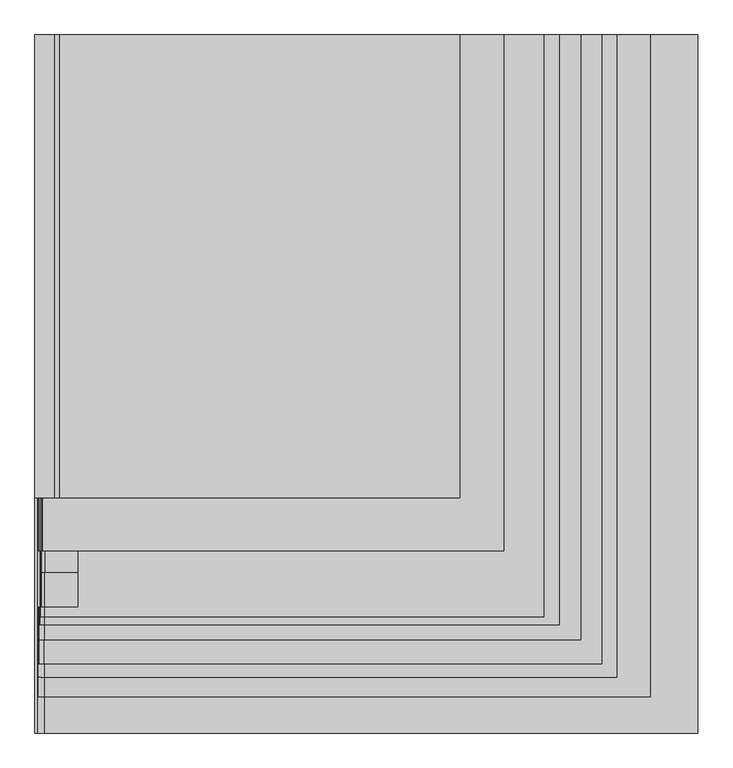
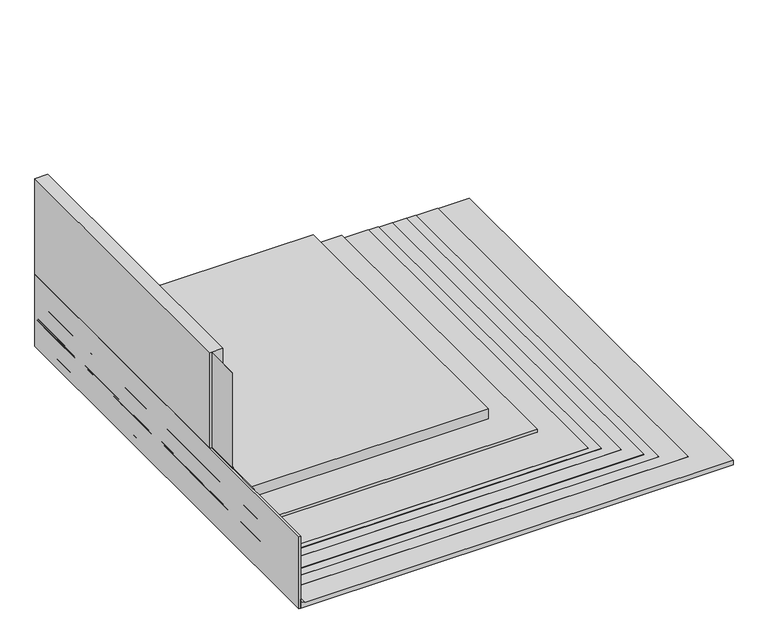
"""IFC4 building model written with IfcOpenShell, lengths in millimetres: proxy geometry, IMPER:IMPER:433934 : IMPER:IMPER:433934."""

from ifc_helpers import new_model, si_unit, point, frame, frame_2d, origin, place, context, project, spatial, polyline, circle_curve, trimmed, segment, composite_curve, outline, extrude, source, transform, mapped, element, save


def generic_models_e7e59d38(model_context):
    return source(origin(), model_context, "Body", "SweptSolid", [
        extrude(outline(polyline([(-351.9704105, 145.8700195), (-341.9704105, 145.8700195), (-341.9704105, -2708.2416892), (-351.9704105, -2708.2416892), (-351.9704105, 145.8700195)])), frame((0.0, 0.0, -2.523798), z_axis=(0.0, 0.0, 1.0), x_axis=(1.0, 0.0, 0.0)), (0.0, 0.0, 1.0), 475.2746515),
        extrude(outline(composite_curve([segment(polyline([(43.4968127, -175.9704105), (43.4968127, -312.7298014)]), True, "CONTINUOUS"), segment(trimmed(circle_curve(frame_2d((57.476202, -311.9704105)), 14.0), [point((43.4968127, -312.7298014))], [point((57.0054636, -325.9624942))], True, "CARTESIAN"), True, "CONTINUOUS"), segment(polyline([(57.0054636, -325.9624942), (163.6459496, -325.9624942)]), True, "CONTINUOUS"), segment(trimmed(circle_curve(frame_2d((163.6459496, -336.9154916)), 10.9529974), [point((163.6459496, -325.9624942))], [point((172.1062554, -329.9591004))], False, "CARTESIAN"), True, "CONTINUOUS"), segment(polyline([(172.1062554, -329.9591004), (294.8610668, -329.9591004)]), True, "CONTINUOUS"), segment(trimmed(circle_curve(frame_2d((294.8610668, -340.9120978)), 10.9529974), [point((294.8610668, -329.9591004))], [point((304.0300364, -334.9205914))], False, "CARTESIAN"), True, "CONTINUOUS"), segment(polyline([(304.0300364, -334.9205914), (461.4633615, -334.9205914), (461.4633615, -335.9205914), (304.0720499, -335.9205914)]), True, "CONTINUOUS"), segment(trimmed(circle_curve(frame_2d((304.5259074, -334.1127251)), 1.8639655), [point((304.0720499, -335.9205914))], [point((303.00141, -335.1852338))], False, "CARTESIAN"), True, "CONTINUOUS"), segment(trimmed(circle_curve(frame_2d((294.8610668, -340.9120978)), 9.9529974), [point((303.00141, -335.1852338))], [point((294.8610668, -330.9591004))], True, "CARTESIAN"), True, "CONTINUOUS"), segment(polyline([(294.8610668, -330.9591004), (171.6198798, -330.9591004)]), True, "CONTINUOUS"), segment(trimmed(circle_curve(frame_2d((163.6459496, -336.9154916)), 9.9529974), [point((171.6198798, -330.9591004))], [point((163.6459496, -326.9624942))], True, "CARTESIAN"), True, "CONTINUOUS"), segment(polyline([(163.6459496, -326.9624942), (56.9889369, -326.9624942)]), True, "CONTINUOUS"), segment(trimmed(circle_curve(frame_2d((57.476202, -311.9704105)), 15.0), [point((56.9889369, -326.9624942))], [point((42.4968127, -312.7564741))], False, "CARTESIAN"), True, "CONTINUOUS"), segment(polyline([(42.4968127, -312.7564741), (42.4968127, -175.9704105), (43.4968127, -175.9704105)]), True, "CONTINUOUS")], self_intersect=False)), frame((0.0, -2050.1362596, 0.0), z_axis=(0.0, 1.0, 0.0), x_axis=(0.0, 0.0, 1.0)), (0.0, 0.0, 1.0), 2196.0062791),
        extrude(outline(composite_curve([segment(polyline([(466.5018705, -340.9591004), (300.476202, -340.9591004), (300.476202, -339.9591004), (296.476202, -335.9591004), (169.3945684, -335.9591004)]), True, "CONTINUOUS"), segment(trimmed(circle_curve(frame_2d((172.1042122, -331.791326)), 4.9711681), [point((169.3945684, -335.9591004))], [point((167.6521132, -334.0029606))], False, "CARTESIAN"), True, "CONTINUOUS"), segment(trimmed(circle_curve(frame_2d((163.6459496, -336.9154916)), 4.9529974), [point((167.6521132, -334.0029606))], [point((163.6459496, -331.9624942))], True, "CARTESIAN"), True, "CONTINUOUS"), segment(polyline([(163.6459496, -331.9624942), (56.9135382, -331.9624942)]), True, "CONTINUOUS"), segment(trimmed(circle_curve(frame_2d((57.476202, -311.9704105)), 20.0), [point((56.9135382, -331.9624942))], [point((37.4968127, -312.8781566))], False, "CARTESIAN"), True, "CONTINUOUS"), segment(polyline([(37.4968127, -312.8781566), (37.4968127, 1728.4303467), (38.4968127, 1728.4303467), (38.4968127, -312.8551599)]), True, "CONTINUOUS"), segment(trimmed(circle_curve(frame_2d((57.476202, -311.9704105)), 19.0), [point((38.4968127, -312.8551599))], [point((56.927788, -330.9624942))], True, "CARTESIAN"), True, "CONTINUOUS"), segment(polyline([(56.927788, -330.9624942), (163.6459496, -330.9624942)]), True, "CONTINUOUS"), segment(trimmed(circle_curve(frame_2d((163.6459496, -336.9154916)), 5.9529974), [point((163.6459496, -330.9624942))], [point((168.5147786, -333.4901911))], False, "CARTESIAN"), True, "CONTINUOUS"), segment(trimmed(circle_curve(frame_2d((172.1042122, -331.791326)), 3.9711681), [point((168.5147786, -333.4901911))], [point((169.7093464, -334.9591004))], True, "CARTESIAN"), True, "CONTINUOUS"), segment(polyline([(169.7093464, -334.9591004), (294.8610668, -334.9591004)]), True, "CONTINUOUS"), segment(trimmed(circle_curve(frame_2d((294.8610668, -340.9120978)), 5.9529974), [point((294.8610668, -334.9591004))], [point((299.7298957, -337.4867974))], False, "CARTESIAN"), True, "CONTINUOUS"), segment(trimmed(circle_curve(frame_2d((304.5259074, -334.1127251)), 5.8639655), [point((299.7298957, -337.4867974))], [point((304.0720499, -339.9591004))], True, "CARTESIAN"), True, "CONTINUOUS"), segment(polyline([(304.0720499, -339.9591004), (465.5018705, -339.9591004), (466.5018705, -340.9591004)]), True, "CONTINUOUS")], self_intersect=False)), frame((0.0, -2232.0639924, 0.0), z_axis=(0.0, 1.0, 0.0), x_axis=(0.0, 0.0, 1.0)), (0.0, 0.0, 1.0), 2377.9340119),
        extrude(outline(composite_curve([segment(polyline([(32.4968127, 1879.2499187), (33.4968127, 1879.2499187), (33.4968127, -312.9648392)]), True, "CONTINUOUS"), segment(trimmed(circle_curve(frame_2d((57.476202, -311.9704105)), 24.0), [point((33.4968127, -312.9648392))], [point((56.8598245, -335.9624942))], True, "CARTESIAN"), True, "CONTINUOUS"), segment(polyline([(56.8598245, -335.9624942), (163.6459496, -335.9624942)]), True, "CONTINUOUS"), segment(trimmed(circle_curve(frame_2d((163.6459496, -336.9154916)), 0.9529974), [point((163.6459496, -335.9624942))], [point((164.5600273, -336.6459252))], False, "CARTESIAN"), True, "CONTINUOUS"), segment(trimmed(circle_curve(frame_2d((172.1042122, -331.791326)), 8.9711681), [point((164.5600273, -336.6459252))], [point((168.3935088, -339.9591004))], True, "CARTESIAN"), True, "CONTINUOUS"), segment(polyline([(168.3935088, -339.9591004), (300.476202, -339.9591004), (300.476202, -340.9591004), (166.6459496, -340.9591004), (166.6459496, -339.9624942), (163.6459496, -336.9624942), (56.8471123, -336.9624942)]), True, "CONTINUOUS"), segment(trimmed(circle_curve(frame_2d((57.476202, -311.9704105)), 25.0), [point((56.8471123, -336.9624942))], [point((32.4968127, -312.9853538))], False, "CARTESIAN"), True, "CONTINUOUS"), segment(polyline([(32.4968127, -312.9853538), (32.4968127, 1879.2499187)]), True, "CONTINUOUS")], self_intersect=False)), frame((0.0, -2326.8912735, 0.0), z_axis=(0.0, 1.0, 0.0), x_axis=(0.0, 0.0, 1.0)), (0.0, 0.0, 1.0), 2472.7612929),
        extrude(outline(composite_curve([segment(polyline([(28.5018705, 2026.6221521), (29.4968127, 2026.6221521), (29.4968127, -313.0445492)]), True, "CONTINUOUS"), segment(trimmed(circle_curve(frame_2d((57.476202, -311.9704105)), 28.0), [point((29.4968127, -313.0445492))], [point((56.8104304, -339.9624942))], True, "CARTESIAN"), True, "CONTINUOUS"), segment(polyline([(56.8104304, -339.9624942), (166.6459496, -339.9624942), (166.6459496, -340.9591004), (56.6663512, -340.9591004)]), True, "CONTINUOUS"), segment(trimmed(circle_curve(frame_2d((57.476202, -311.9704105)), 29.0), [point((56.6663512, -340.9591004))], [point((28.5018705, -313.1902924))], False, "CARTESIAN"), True, "CONTINUOUS"), segment(polyline([(28.5018705, -313.1902924), (28.5018705, 2026.6221521)]), True, "CONTINUOUS")], self_intersect=False)), frame((0.0, -2478.9376415, 0.0), z_axis=(0.0, 1.0, 0.0), x_axis=(0.0, 0.0, 1.0)), (0.0, 0.0, 1.0), 2624.807661),
        extrude(outline(composite_curve([segment(polyline([(38.4968127, -312.8551599), (38.4968127, -175.9704105), (42.4968127, -175.9704105), (42.4968127, -312.7564741)]), True, "CONTINUOUS"), segment(trimmed(circle_curve(frame_2d((57.476202, -311.9704105)), 15.0), [point((42.4968127, -312.7564741))], [point((56.9889369, -326.9624942))], True, "CARTESIAN"), True, "CONTINUOUS"), segment(polyline([(56.9889369, -326.9624942), (163.6459496, -326.9624942)]), True, "CONTINUOUS"), segment(trimmed(circle_curve(frame_2d((163.6459496, -336.9154916)), 9.9529974), [point((163.6459496, -326.9624942))], [point((171.6198798, -330.9591004))], False, "CARTESIAN"), True, "CONTINUOUS"), segment(polyline([(171.6198798, -330.9591004), (294.8610668, -330.9591004)]), True, "CONTINUOUS"), segment(trimmed(circle_curve(frame_2d((294.8610668, -340.9120978)), 9.9529974), [point((294.8610668, -330.9591004))], [point((303.00141, -335.1852338))], False, "CARTESIAN"), True, "CONTINUOUS"), segment(trimmed(circle_curve(frame_2d((304.5259074, -334.1127251)), 1.8639655), [point((303.00141, -335.1852338))], [point((304.0720499, -335.9205914))], True, "CARTESIAN"), True, "CONTINUOUS"), segment(polyline([(304.0720499, -335.9205914), (461.4633615, -335.9205914), (465.5018705, -339.9591004), (304.0720499, -339.9591004)]), True, "CONTINUOUS"), segment(trimmed(circle_curve(frame_2d((304.5259074, -334.1127251)), 5.8639655), [point((304.0720499, -339.9591004))], [point((299.7298957, -337.4867974))], False, "CARTESIAN"), True, "CONTINUOUS"), segment(trimmed(circle_curve(frame_2d((294.8610668, -340.9120978)), 5.9529974), [point((299.7298957, -337.4867974))], [point((294.8610668, -334.9591004))], True, "CARTESIAN"), True, "CONTINUOUS"), segment(polyline([(294.8610668, -334.9591004), (169.7093464, -334.9591004)]), True, "CONTINUOUS"), segment(trimmed(circle_curve(frame_2d((172.1042122, -331.791326)), 3.9711681), [point((169.7093464, -334.9591004))], [point((168.5147786, -333.4901911))], False, "CARTESIAN"), True, "CONTINUOUS"), segment(trimmed(circle_curve(frame_2d((163.6459496, -336.9154916)), 5.9529974), [point((168.5147786, -333.4901911))], [point((163.6459496, -330.9624942))], True, "CARTESIAN"), True, "CONTINUOUS"), segment(polyline([(163.6459496, -330.9624942), (56.927788, -330.9624942)]), True, "CONTINUOUS"), segment(trimmed(circle_curve(frame_2d((57.476202, -311.9704105)), 19.0), [point((56.927788, -330.9624942))], [point((38.4968127, -312.8551599))], False, "CARTESIAN"), True, "CONTINUOUS")], self_intersect=False)), frame((0.0, -2191.1266924, 0.0), z_axis=(0.0, 1.0, 0.0), x_axis=(0.0, 0.0, 1.0)), (0.0, 0.0, 1.0), 2336.9967119),
        extrude(outline(polyline([(-271.9704105, 145.8700195), (-251.9704105, 145.8700195), (-251.9704105, -1746.6992838), (-271.9704105, -1746.6992838), (-271.9704105, 145.8700195)])), frame((0.0, 0.0, 107.3018705), z_axis=(0.0, 0.0, 1.0), x_axis=(1.0, 0.0, 0.0)), (0.0, 0.0, 1.0), 20.0),
        extrude(outline(composite_curve([segment(polyline([(127.3018705, 1383.8408996), (127.3018705, -251.9704105), (107.3018705, -251.9704105), (107.3018705, -271.9704105), (127.3018705, -271.9704105), (1104.1279924, -271.9704105), (1104.1279924, -351.9704105), (472.7508535, -351.9704105), (472.7508535, -341.9704105), (463.7010344, -332.9205914), (454.5173822, -332.9205914), (454.5173822, -334.9205914), (304.2761871, -334.9205914)]), True, "CONTINUOUS"), segment(trimmed(circle_curve(frame_2d((297.476202, -341.9120978)), 9.7529974), [point((304.2761871, -334.9205914))], [point((297.476202, -332.1591004))], True, "CARTESIAN"), True, "CONTINUOUS"), segment(polyline([(297.476202, -332.1591004), (171.4311923, -332.1591004)]), True, "CONTINUOUS"), segment(trimmed(circle_curve(frame_2d((162.3497254, -335.7154916)), 9.7529974), [point((171.4311923, -332.1591004))], [point((162.3497254, -325.9624942))], True, "CARTESIAN"), True, "CONTINUOUS"), segment(polyline([(162.3497254, -325.9624942), (58.4968127, -325.9624942), (58.4968127, 1383.8408996), (127.3018705, 1383.8408996)]), True, "CONTINUOUS")], self_intersect=False)), frame((0.0, -1746.6992838, 0.0), z_axis=(0.0, 1.0, 0.0), x_axis=(0.0, 0.0, 1.0)), (0.0, 0.0, 1.0), 1892.5693033),
        extrude(outline(composite_curve([segment(polyline([(58.4968127, 1564.0375058), (58.4968127, -325.9331593)]), True, "CONTINUOUS"), segment(trimmed(circle_curve(frame_2d((57.476202, -311.9704105)), 14.0), [point((58.4968127, -325.9331593))], [point((43.4968127, -312.7298014))], False, "CARTESIAN"), True, "CONTINUOUS"), segment(polyline([(43.4968127, -312.7298014), (43.4968127, -175.9704105), (38.4968127, -175.9704105), (38.4968127, 1564.0375058), (58.4968127, 1564.0375058)]), True, "CONTINUOUS")], self_intersect=False)), frame((0.0, -1963.6408586, 0.0), z_axis=(0.0, 1.0, 0.0), x_axis=(0.0, 0.0, 1.0)), (0.0, 0.0, 1.0), 2109.5108781),
        extrude(outline(polyline([(461.4633615, -335.9205914), (454.5173822, -335.9205914), (454.5173822, -332.9205914), (463.7010344, -332.9205914), (472.7508535, -341.9704105), (467.5131806, -341.9704105), (461.4633615, -335.9205914)])), frame((0.0, -2191.1266924, 0.0), z_axis=(0.0, 1.0, 0.0), x_axis=(0.0, 0.0, 1.0)), (0.0, 0.0, 1.0), 2336.9967119),
        extrude(outline(composite_curve([segment(polyline([(162.3497254, -322.3591004), (64.8117312, -322.3591004), (64.8117312, -321.5591004), (162.3497254, -321.5591004)]), True, "CONTINUOUS"), segment(trimmed(circle_curve(frame_2d((162.3497254, -337.1120978)), 15.5529974), [point((162.3497254, -321.5591004))], [point((173.5866634, -326.3591004))], False, "CARTESIAN"), True, "CONTINUOUS"), segment(polyline([(173.5866634, -326.3591004), (297.476202, -326.3591004)]), True, "CONTINUOUS"), segment(trimmed(circle_curve(frame_2d((297.476202, -341.9120978)), 15.5529974), [point((297.476202, -326.3591004))], [point((308.71314, -331.1591004))], False, "CARTESIAN"), True, "CONTINUOUS"), segment(polyline([(308.71314, -331.1591004), (469.5652191, -331.1591004)]), True, "CONTINUOUS"), segment(trimmed(circle_curve(frame_2d((458.684068, -349.0899304)), 20.9741296), [point((469.5652191, -331.1591004))], [point((476.2538106, -337.6348766))], False, "CARTESIAN"), True, "CONTINUOUS"), segment(polyline([(476.2538106, -337.6348766), (1098.9341396, -337.6348766), (1098.9341396, -338.4348766), (475.8148979, -338.4348766)]), True, "CONTINUOUS"), segment(trimmed(circle_curve(frame_2d((458.684068, -349.0899304)), 20.1741296), [point((475.8148979, -338.4348766))], [point((469.3391217, -331.9591004))], True, "CARTESIAN"), True, "CONTINUOUS"), segment(polyline([(469.3391217, -331.9591004), (308.3660494, -331.9591004)]), True, "CONTINUOUS"), segment(trimmed(circle_curve(frame_2d((297.476202, -341.9120978)), 14.7529974), [point((308.3660494, -331.9591004))], [point((297.476202, -327.1591004))], True, "CARTESIAN"), True, "CONTINUOUS"), segment(polyline([(297.476202, -327.1591004), (173.2395727, -327.1591004)]), True, "CONTINUOUS"), segment(trimmed(circle_curve(frame_2d((162.3497254, -337.1120978)), 14.7529974), [point((173.2395727, -327.1591004))], [point((162.3497254, -322.3591004))], True, "CARTESIAN"), True, "CONTINUOUS")], self_intersect=False)), frame((0.0, -1963.6408586, 0.0), z_axis=(0.0, 1.0, 0.0), x_axis=(0.0, 0.0, 1.0)), (0.0, 0.0, 1.0), 2109.5108781),
        extrude(outline(composite_curve([segment(polyline([(-311.9704105, 27.476202), (2358.0295895, 27.476202), (2358.0295895, -2.523798), (-341.9704105, -2.523798), (-341.9704105, 57.476202)]), True, "CONTINUOUS"), segment(trimmed(circle_curve(frame_2d((-311.9704105, 57.476202)), 30.0), [point((-341.9704105, 57.476202))], [point((-311.9704105, 27.476202))], True, "CARTESIAN"), True, "CONTINUOUS")], self_intersect=False)), frame((0.0, 145.8700195, 0.0), z_axis=(0.0, -1.0, 0.0), x_axis=(1.0, 0.0, 0.0)), (0.0, 0.0, 1.0), 2854.1117086),
        extrude(outline(composite_curve([segment(polyline([(56.6663512, -340.9591004), (466.5054998, -340.9591004), (466.5054998, -341.9704105), (57.476202, -341.9704105)]), True, "CONTINUOUS"), segment(trimmed(circle_curve(frame_2d((57.476202, -311.9704105)), 30.0), [point((57.476202, -341.9704105))], [point((27.476202, -311.9704105))], False, "CARTESIAN"), True, "CONTINUOUS"), segment(polyline([(27.476202, -311.9704105), (27.476202, 2163.8408996), (28.5018705, 2163.8408996), (28.5018705, -313.1902924)]), True, "CONTINUOUS"), segment(trimmed(circle_curve(frame_2d((57.476202, -311.9704105)), 29.0), [point((28.5018705, -313.1902924))], [point((56.6663512, -340.9591004))], True, "CARTESIAN"), True, "CONTINUOUS")], self_intersect=False)), frame((0.0, -2558.7854434, 0.0), z_axis=(0.0, 1.0, 0.0), x_axis=(0.0, 0.0, 1.0)), (0.0, 0.0, 1.0), 2704.6554629),
        extrude(outline(composite_curve([segment(trimmed(circle_curve(frame_2d((172.1042122, -331.791326)), 4.9711681), [point((167.6521132, -334.0029606))], [point((169.3945684, -335.9591004))], True, "CARTESIAN"), True, "CONTINUOUS"), segment(polyline([(169.3945684, -335.9591004), (296.476202, -335.9591004), (300.476202, -339.9591004), (168.3935088, -339.9591004)]), True, "CONTINUOUS"), segment(trimmed(circle_curve(frame_2d((172.1042122, -331.791326)), 8.9711681), [point((168.3935088, -339.9591004))], [point((164.5600273, -336.6459252))], False, "CARTESIAN"), True, "CONTINUOUS"), segment(trimmed(circle_curve(frame_2d((163.6459496, -336.9154916)), 0.9529974), [point((164.5600273, -336.6459252))], [point((163.6459496, -335.9624942))], True, "CARTESIAN"), True, "CONTINUOUS"), segment(polyline([(163.6459496, -335.9624942), (56.8598245, -335.9624942)]), True, "CONTINUOUS"), segment(trimmed(circle_curve(frame_2d((57.476202, -311.9704105)), 24.0), [point((56.8598245, -335.9624942))], [point((33.4968127, -312.9648392))], False, "CARTESIAN"), True, "CONTINUOUS"), segment(polyline([(33.4968127, -312.9648392), (33.4968127, 1792.4704111), (37.4968127, 1792.4704111), (37.4968127, -312.8781566)]), True, "CONTINUOUS"), segment(trimmed(circle_curve(frame_2d((57.476202, -311.9704105)), 20.0), [point((37.4968127, -312.8781566))], [point((56.9135382, -331.9624942))], True, "CARTESIAN"), True, "CONTINUOUS"), segment(polyline([(56.9135382, -331.9624942), (163.6459496, -331.9624942)]), True, "CONTINUOUS"), segment(trimmed(circle_curve(frame_2d((163.6459496, -336.9154916)), 4.9529974), [point((163.6459496, -331.9624942))], [point((167.6521132, -334.0029606))], False, "CARTESIAN"), True, "CONTINUOUS")], self_intersect=False)), frame((0.0, -2265.2015055, 0.0), z_axis=(0.0, 1.0, 0.0), x_axis=(0.0, 0.0, 1.0)), (0.0, 0.0, 1.0), 2411.071525),
        extrude(outline(composite_curve([segment(polyline([(56.8471123, -336.9624942), (163.6459496, -336.9624942), (166.6459496, -339.9624942), (56.8104304, -339.9624942)]), True, "CONTINUOUS"), segment(trimmed(circle_curve(frame_2d((57.476202, -311.9704105)), 28.0), [point((56.8104304, -339.9624942))], [point((29.4968127, -313.0445492))], False, "CARTESIAN"), True, "CONTINUOUS"), segment(polyline([(29.4968127, -313.0445492), (29.4968127, 1964.4112423), (32.4968127, 1964.4112423), (32.4968127, -312.9853538)]), True, "CONTINUOUS"), segment(trimmed(circle_curve(frame_2d((57.476202, -311.9704105)), 25.0), [point((32.4968127, -312.9853538))], [point((56.8471123, -336.9624942))], True, "CARTESIAN"), True, "CONTINUOUS")], self_intersect=False)), frame((0.0, -2425.100387, 0.0), z_axis=(0.0, 1.0, 0.0), x_axis=(0.0, 0.0, 1.0)), (0.0, 0.0, 1.0), 2570.9704065),
    ])


if __name__ == "__main__":
    model = new_model("IFC4")
    model_context = context("Model", 3, world=origin())
    ifc_project = project(units=[si_unit("LENGTHUNIT", "METRE", prefix="MILLI")], contexts=[model_context])
    site = spatial("IfcSite", under=ifc_project)
    building = spatial("IfcBuilding", under=site)
    placement = place(None, origin())
    generic_models_shape = generic_models_e7e59d38(model_context)
    element("IfcBuildingElementProxy", 1, Name="IMPER:IMPER:433934 : IMPER:IMPER:433934", ObjectType="IMPER:IMPER:433934 : IMPER:IMPER:433934", at=placement, inside=building, context=model_context, shape_type="MappedRepresentation", body=[
        mapped(generic_models_shape, transform((0.0, 0.0, 0.0), x_axis=(1.0, 0.0, 0.0), y_axis=(0.0, 1.0, 0.0), z_axis=(0.0, 0.0, 1.0))),
    ])
    save(model, "model.ifc")
